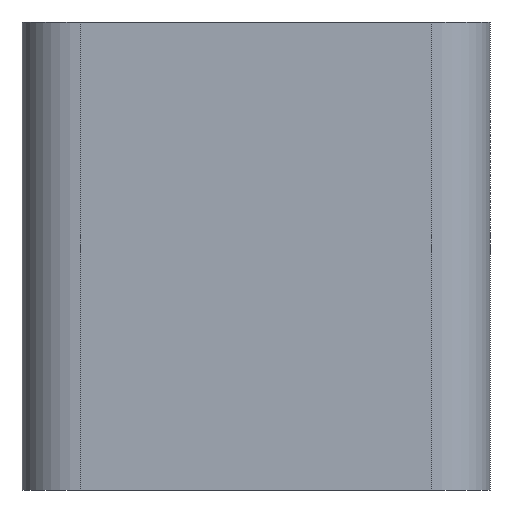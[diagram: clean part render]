
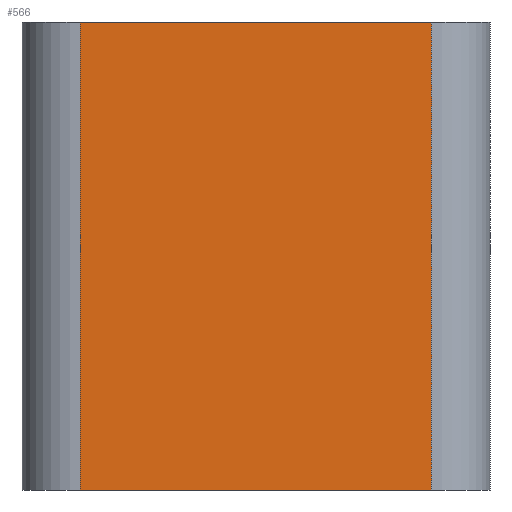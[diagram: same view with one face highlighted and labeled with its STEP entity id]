
A CAD part, front view. The second image highlights one B-rep face of the part: STEP entity #566.
In plain terms, the highlighted planar face has unit normal (0, -1, 0).
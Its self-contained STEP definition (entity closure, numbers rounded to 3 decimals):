
#15=PLANE('',#612);
#38=FACE_OUTER_BOUND('',#68,.T.);
#68=EDGE_LOOP('',(#393,#394,#395,#396));
#97=LINE('',#823,#165);
#99=LINE('',#829,#167);
#100=LINE('',#831,#168);
#101=LINE('',#832,#169);
#165=VECTOR('',#661,10.);
#167=VECTOR('',#667,10.);
#168=VECTOR('',#668,10.);
#169=VECTOR('',#669,10.);
#250=VERTEX_POINT('',#820);
#251=VERTEX_POINT('',#822);
#253=VERTEX_POINT('',#828);
#254=VERTEX_POINT('',#830);
#306=EDGE_CURVE('',#250,#251,#97,.T.);
#309=EDGE_CURVE('',#253,#250,#99,.T.);
#310=EDGE_CURVE('',#254,#253,#100,.T.);
#311=EDGE_CURVE('',#251,#254,#101,.T.);
#393=ORIENTED_EDGE('',*,*,#306,.F.);
#394=ORIENTED_EDGE('',*,*,#309,.F.);
#395=ORIENTED_EDGE('',*,*,#310,.F.);
#396=ORIENTED_EDGE('',*,*,#311,.F.);
#566=ADVANCED_FACE('',(#38),#15,.T.);
#612=AXIS2_PLACEMENT_3D('',#827,#665,#666);
#661=DIRECTION('',(0.,0.,-1.));
#665=DIRECTION('center_axis',(0.,-1.,0.));
#666=DIRECTION('ref_axis',(-1.,0.,0.));
#667=DIRECTION('',(1.,0.,0.));
#668=DIRECTION('',(0.,0.,1.));
#669=DIRECTION('',(-1.,0.,0.));
#820=CARTESIAN_POINT('',(3.,-4.,6.));
#822=CARTESIAN_POINT('',(3.,-4.,-2.));
#823=CARTESIAN_POINT('',(3.,-4.,0.));
#827=CARTESIAN_POINT('Origin',(4.,-4.,0.));
#828=CARTESIAN_POINT('',(-3.,-4.,6.));
#829=CARTESIAN_POINT('',(-4.,-4.,6.));
#830=CARTESIAN_POINT('',(-3.,-4.,-2.));
#831=CARTESIAN_POINT('',(-3.,-4.,0.));
#832=CARTESIAN_POINT('',(-4.,-4.,-2.));
